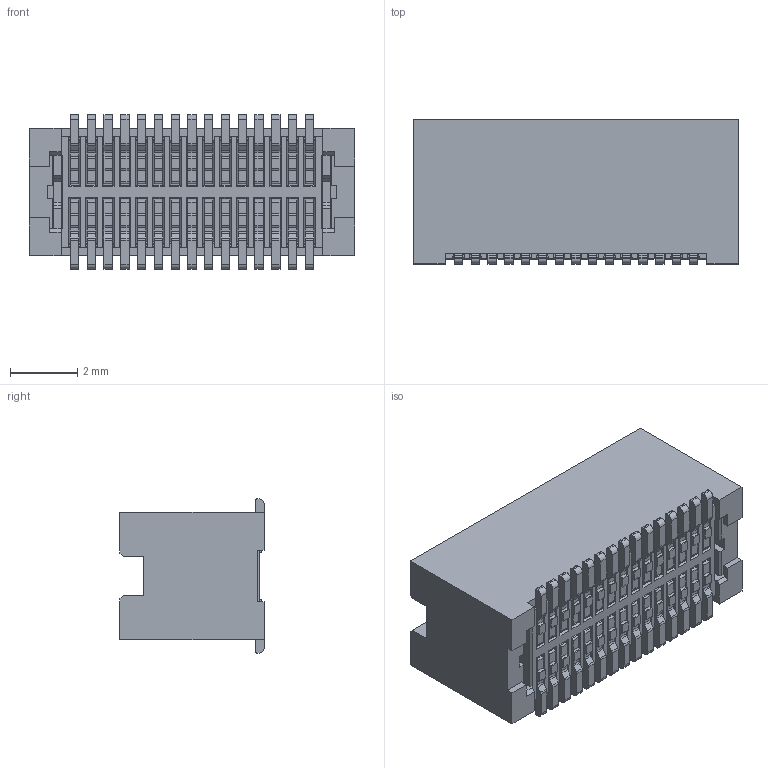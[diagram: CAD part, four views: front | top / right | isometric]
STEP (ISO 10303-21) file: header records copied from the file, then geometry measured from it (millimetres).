
FILE_DESCRIPTION((''),'2;1');
FILE_NAME('PRT0007','2011-04-20T',('12114031'),(''),'PRO/ENGINEER BY PARAMETRIC TECHNOLOGY CORPORATION, 2007450','PRO/ENGINEER BY PARAMETRIC TECHNOLOGY CORPORATION, 2007450','');
FILE_SCHEMA(('CONFIG_CONTROL_DESIGN'));
Products named in the file (1): PRT0007
Bounding box: 9.7 x 4.3 x 4.6 mm (x, y, z)
Volume: 117.2 mm3; surface area: 676.6 mm2
Topology: 1 solids, 1 shells, 2304 faces, 7408 edges, 4896 vertices
Faces by surface type: plane 1494, cylinder 810
Entity records: 81986 total; most frequent: ORIENTED_EDGE 14816, CARTESIAN_POINT 14608, DIRECTION 13696, EDGE_CURVE 7408, VECTOR 5728, LINE 5728, VERTEX_POINT 4896, AXIS2_PLACEMENT_3D 3984
